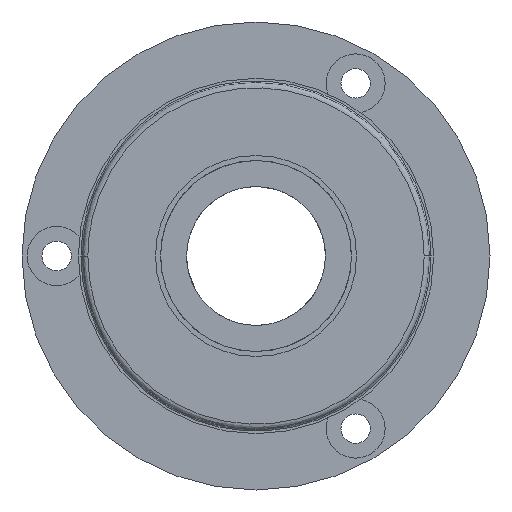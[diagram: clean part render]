
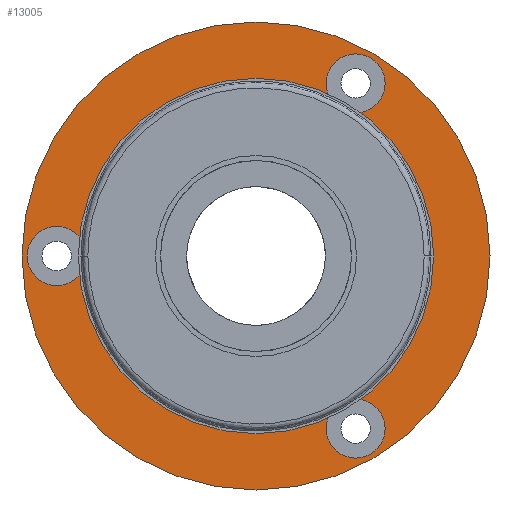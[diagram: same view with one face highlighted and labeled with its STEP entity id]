
A CAD part, left-side view. The second image highlights one B-rep face of the part: STEP entity #13005.
In plain terms, the highlighted planar face has unit normal (-1, 0, 0).
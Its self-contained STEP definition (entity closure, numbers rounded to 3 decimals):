
#55 = CIRCLE ( 'NONE', #6859, 7.5 ) ;
#277 = DIRECTION ( 'NONE',  ( 0., 1., 0. ) ) ;
#970 = EDGE_CURVE ( 'NONE', #25763, #30731, #15386, .T. ) ;
#1316 = AXIS2_PLACEMENT_3D ( 'NONE', #10417, #30038, #13258 ) ;
#2015 = PLANE ( 'NONE',  #13761 ) ;
#2507 = FACE_BOUND ( 'NONE', #27891, .T. ) ;
#2754 = DIRECTION ( 'NONE',  ( 1., 0., 0. ) ) ;
#3084 = DIRECTION ( 'NONE',  ( 1., 0., 0. ) ) ;
#3860 = CARTESIAN_POINT ( 'NONE',  ( 2.8, -7.45, 9.959 ) ) ;
#4268 = VERTEX_POINT ( 'NONE', #15104 ) ;
#5246 = EDGE_CURVE ( 'NONE', #27397, #6253, #29663, .T. ) ;
#5520 = AXIS2_PLACEMENT_3D ( 'NONE', #33963, #17167, #277 ) ;
#6212 = EDGE_CURVE ( 'NONE', #32190, #25919, #30902, .T. ) ;
#6253 = VERTEX_POINT ( 'NONE', #20121 ) ;
#6450 = EDGE_CURVE ( 'NONE', #30731, #25763, #14246, .T. ) ;
#6859 = AXIS2_PLACEMENT_3D ( 'NONE', #19681, #2754, #22494 ) ;
#6893 = CIRCLE ( 'NONE', #5520, 13.5 ) ;
#6932 = EDGE_CURVE ( 'NONE', #4268, #33471, #55, .T. ) ;
#7082 = CARTESIAN_POINT ( 'NONE',  ( 2.8, -7.45, -9.959 ) ) ;
#7899 = EDGE_CURVE ( 'NONE', #12526, #35803, #6893, .T. ) ;
#9406 = CARTESIAN_POINT ( 'NONE',  ( 2.8, 11.5, 0. ) ) ;
#10240 = CARTESIAN_POINT ( 'NONE',  ( 2.8, 13.5, 0. ) ) ;
#10417 = CARTESIAN_POINT ( 'NONE',  ( 2.8, 0., 0. ) ) ;
#11067 = AXIS2_PLACEMENT_3D ( 'NONE', #20465, #33797, #34384 ) ;
#11677 = EDGE_LOOP ( 'NONE', ( #13734, #29530 ) ) ;
#12132 = AXIS2_PLACEMENT_3D ( 'NONE', #22917, #22800, #22681 ) ;
#12270 = DIRECTION ( 'NONE',  ( 0., -1., 0. ) ) ;
#12272 = AXIS2_PLACEMENT_3D ( 'NONE', #30468, #13679, #33293 ) ;
#12526 = VERTEX_POINT ( 'NONE', #10240 ) ;
#12574 = AXIS2_PLACEMENT_3D ( 'NONE', #20005, #3084, #22814 ) ;
#12714 = CIRCLE ( 'NONE', #12272, 1.7 ) ;
#12759 = EDGE_CURVE ( 'NONE', #25919, #32190, #12714, .T. ) ;
#13005 = ADVANCED_FACE ( 'NONE', ( #32434, #2507, #17531, #31551, #24097 ), #2015, .T. ) ;
#13258 = DIRECTION ( 'NONE',  ( 0., 1., 0. ) ) ;
#13400 = CARTESIAN_POINT ( 'NONE',  ( 2.8, 7.5, 0. ) ) ;
#13679 = DIRECTION ( 'NONE',  ( 1., 0., 0. ) ) ;
#13734 = ORIENTED_EDGE ( 'NONE', *, *, #970, .T. ) ;
#13761 = AXIS2_PLACEMENT_3D ( 'NONE', #13400, #32987, #16196 ) ;
#13877 = EDGE_LOOP ( 'NONE', ( #20790, #24261 ) ) ;
#13998 = DIRECTION ( 'NONE',  ( 0., -1., 0. ) ) ;
#14069 = DIRECTION ( 'NONE',  ( 1., 0., 0. ) ) ;
#14179 = CARTESIAN_POINT ( 'NONE',  ( 2.8, -5.75, 9.959 ) ) ;
#14246 = CIRCLE ( 'NONE', #11067, 1.7 ) ;
#15104 = CARTESIAN_POINT ( 'NONE',  ( 2.8, 7.5, 0. ) ) ;
#15386 = CIRCLE ( 'NONE', #25719, 1.7 ) ;
#15610 = EDGE_LOOP ( 'NONE', ( #17242, #33012 ) ) ;
#15995 = CARTESIAN_POINT ( 'NONE',  ( 2.8, 13.2, 0. ) ) ;
#16196 = DIRECTION ( 'NONE',  ( 0., -1., 0. ) ) ;
#17150 = CIRCLE ( 'NONE', #32739, 1.7 ) ;
#17167 = DIRECTION ( 'NONE',  ( -1., 0., 0. ) ) ;
#17242 = ORIENTED_EDGE ( 'NONE', *, *, #12759, .T. ) ;
#17531 = FACE_BOUND ( 'NONE', #11677, .T. ) ;
#18274 = AXIS2_PLACEMENT_3D ( 'NONE', #25708, #25534, #25531 ) ;
#19681 = CARTESIAN_POINT ( 'NONE',  ( 2.8, 0., 0. ) ) ;
#20005 = CARTESIAN_POINT ( 'NONE',  ( 2.8, 0., 0. ) ) ;
#20121 = CARTESIAN_POINT ( 'NONE',  ( 2.8, 9.8, 0. ) ) ;
#20465 = CARTESIAN_POINT ( 'NONE',  ( 2.8, -5.75, 9.959 ) ) ;
#20673 = CIRCLE ( 'NONE', #12574, 7.5 ) ;
#20790 = ORIENTED_EDGE ( 'NONE', *, *, #35653, .T. ) ;
#21008 = CARTESIAN_POINT ( 'NONE',  ( 2.8, -13.5, 0. ) ) ;
#22494 = DIRECTION ( 'NONE',  ( 0., 1., 0. ) ) ;
#22681 = DIRECTION ( 'NONE',  ( 0., -1., 0. ) ) ;
#22800 = DIRECTION ( 'NONE',  ( 1., 0., 0. ) ) ;
#22814 = DIRECTION ( 'NONE',  ( 0., 1., 0. ) ) ;
#22917 = CARTESIAN_POINT ( 'NONE',  ( 2.8, -5.75, -9.959 ) ) ;
#24097 = FACE_BOUND ( 'NONE', #13877, .T. ) ;
#24261 = ORIENTED_EDGE ( 'NONE', *, *, #5246, .T. ) ;
#24291 = CIRCLE ( 'NONE', #1316, 13.5 ) ;
#25531 = DIRECTION ( 'NONE',  ( 0., -1., 0. ) ) ;
#25534 = DIRECTION ( 'NONE',  ( 1., 0., 0. ) ) ;
#25582 = EDGE_LOOP ( 'NONE', ( #31485, #33250 ) ) ;
#25708 = CARTESIAN_POINT ( 'NONE',  ( 2.8, 11.5, 0. ) ) ;
#25719 = AXIS2_PLACEMENT_3D ( 'NONE', #14179, #14069, #13998 ) ;
#25763 = VERTEX_POINT ( 'NONE', #3860 ) ;
#25919 = VERTEX_POINT ( 'NONE', #7082 ) ;
#26871 = ORIENTED_EDGE ( 'NONE', *, *, #36109, .T. ) ;
#27397 = VERTEX_POINT ( 'NONE', #15995 ) ;
#27891 = EDGE_LOOP ( 'NONE', ( #34998, #26871 ) ) ;
#28451 = EDGE_CURVE ( 'NONE', #35803, #12526, #24291, .T. ) ;
#29065 = DIRECTION ( 'NONE',  ( 1., 0., 0. ) ) ;
#29530 = ORIENTED_EDGE ( 'NONE', *, *, #6450, .T. ) ;
#29663 = CIRCLE ( 'NONE', #18274, 1.7 ) ;
#30038 = DIRECTION ( 'NONE',  ( -1., 0., 0. ) ) ;
#30468 = CARTESIAN_POINT ( 'NONE',  ( 2.8, -5.75, -9.959 ) ) ;
#30731 = VERTEX_POINT ( 'NONE', #31162 ) ;
#30902 = CIRCLE ( 'NONE', #12132, 1.7 ) ;
#31162 = CARTESIAN_POINT ( 'NONE',  ( 2.8, -4.05, 9.959 ) ) ;
#31485 = ORIENTED_EDGE ( 'NONE', *, *, #7899, .T. ) ;
#31551 = FACE_BOUND ( 'NONE', #15610, .T. ) ;
#32190 = VERTEX_POINT ( 'NONE', #33856 ) ;
#32206 = CARTESIAN_POINT ( 'NONE',  ( 2.8, -7.5, 0. ) ) ;
#32434 = FACE_OUTER_BOUND ( 'NONE', #25582, .T. ) ;
#32739 = AXIS2_PLACEMENT_3D ( 'NONE', #9406, #29065, #12270 ) ;
#32987 = DIRECTION ( 'NONE',  ( -1., 0., 0. ) ) ;
#33012 = ORIENTED_EDGE ( 'NONE', *, *, #6212, .T. ) ;
#33250 = ORIENTED_EDGE ( 'NONE', *, *, #28451, .T. ) ;
#33293 = DIRECTION ( 'NONE',  ( 0., -1., 0. ) ) ;
#33471 = VERTEX_POINT ( 'NONE', #32206 ) ;
#33797 = DIRECTION ( 'NONE',  ( 1., 0., 0. ) ) ;
#33856 = CARTESIAN_POINT ( 'NONE',  ( 2.8, -4.05, -9.959 ) ) ;
#33963 = CARTESIAN_POINT ( 'NONE',  ( 2.8, 0., 0. ) ) ;
#34384 = DIRECTION ( 'NONE',  ( 0., -1., 0. ) ) ;
#34998 = ORIENTED_EDGE ( 'NONE', *, *, #6932, .T. ) ;
#35653 = EDGE_CURVE ( 'NONE', #6253, #27397, #17150, .T. ) ;
#35803 = VERTEX_POINT ( 'NONE', #21008 ) ;
#36109 = EDGE_CURVE ( 'NONE', #33471, #4268, #20673, .T. ) ;
